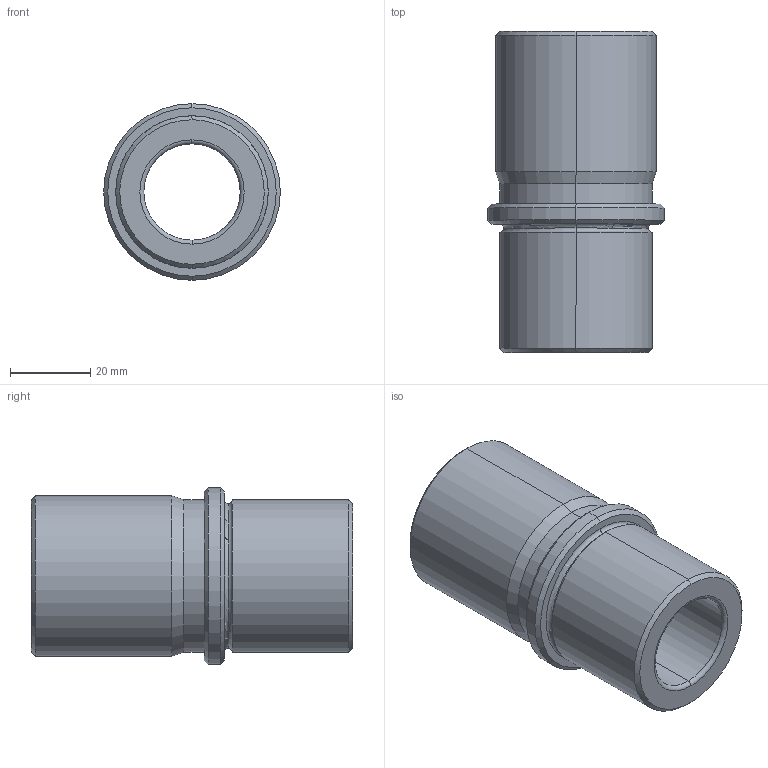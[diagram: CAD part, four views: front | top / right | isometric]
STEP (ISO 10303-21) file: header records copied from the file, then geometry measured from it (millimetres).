
FILE_DESCRIPTION(('CATIA V5 STEP Exchange'),'2;1');
FILE_NAME('C:\Users\Utente\Desktop\IO LAVORO\3D X SITO CF\X SITO\CF 450\CF 450 24x80.stp','2020-12-27T17:57:18+00:00',('none'),('none'),'CATIA Version 5 Release 20 GA (IN-10)','CATIA V5 STEP AP203','none');
FILE_SCHEMA(('CONFIG_CONTROL_DESIGN'));
Length unit declared in the file: millimetre
Products named in the file (1): CF 450 24x80
Bounding box: 44 x 80 x 44 mm (x, y, z)
Volume: 60467.7 mm3; surface area: 17933.8 mm2
Topology: 1 solids, 1 shells, 32 faces, 98 edges, 70 vertices
Faces by surface type: cylinder 10, cone 10, torus 8, plane 4
Entity records: 1236 total; most frequent: CARTESIAN_POINT 313, ORIENTED_EDGE 196, DIRECTION 154, AXIS2_PLACEMENT_3D 103, EDGE_CURVE 98, CIRCLE 70, VERTEX_POINT 70, EDGE_LOOP 36
